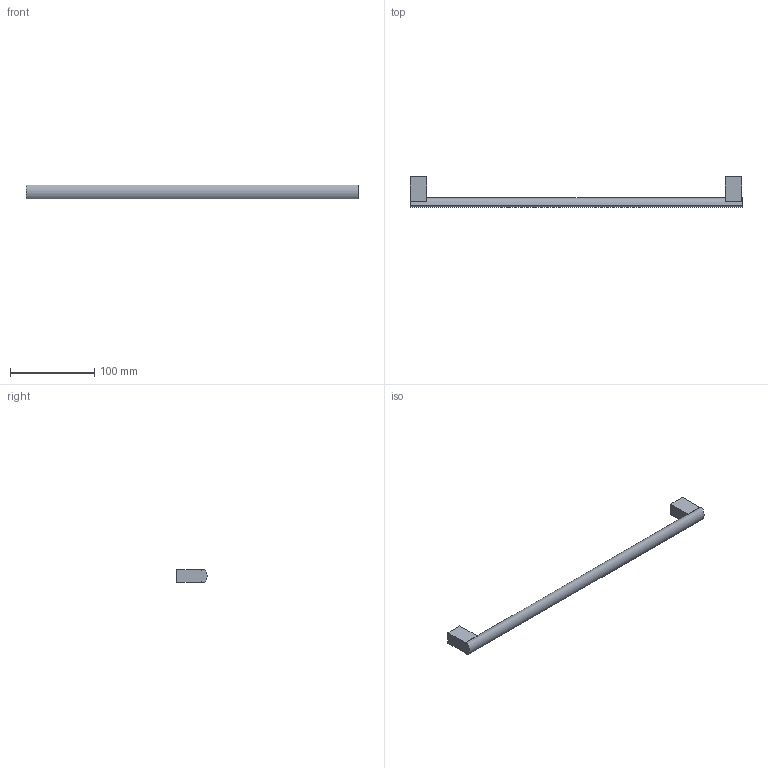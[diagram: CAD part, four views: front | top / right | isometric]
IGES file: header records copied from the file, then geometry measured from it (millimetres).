
Start section: Data from Parasolid IGES Translator 20.0.26, Copyright(c) 2006 Siemens P LM Software. All Rights Reserved.
Global section: file name: 115359.igs; native system: By Siemens PLM Incorporated; preprocessor: XPlus GENERIC/IGES 20.0.26; author: Noname; organization: Noname; date: 20230220.162041; units: millimetre
Bounding box: 394 x 35.96 x 16 mm (x, y, z)
Surface area: 21127.8 mm2 (no closed solid volume)
Topology: 0 solids, 0 shells, 22 faces, 102 edges, 100 vertices
Faces by surface type: extrusion 17, revolution 5
